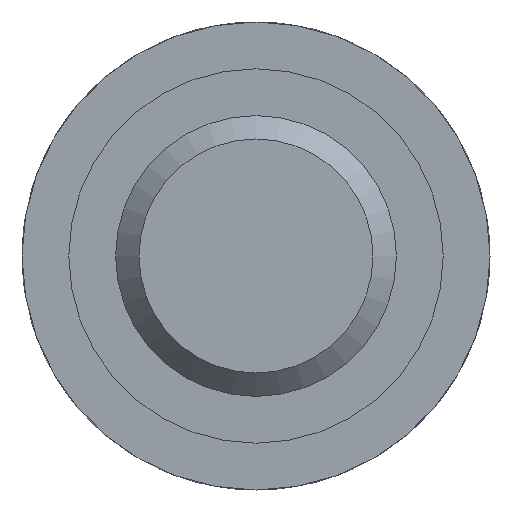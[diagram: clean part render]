
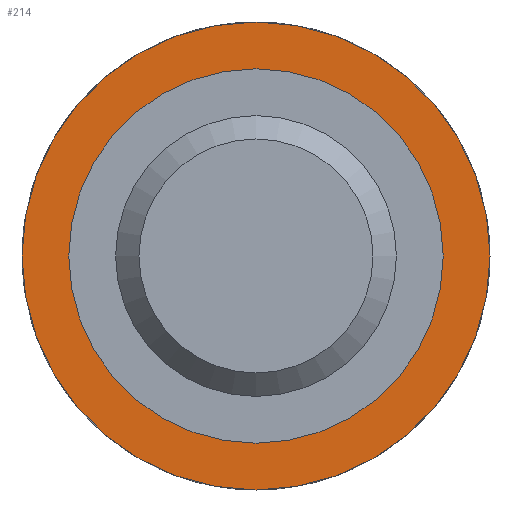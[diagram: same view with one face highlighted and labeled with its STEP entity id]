
A CAD part, left-side view. The second image highlights one B-rep face of the part: STEP entity #214.
In plain terms, the highlighted planar face has unit normal (-1, 0, 0).
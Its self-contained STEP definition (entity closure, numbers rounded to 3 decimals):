
#17=FACE_BOUND('',#60,.T.);
#29=PLANE('',#262);
#43=FACE_OUTER_BOUND('',#59,.T.);
#59=EDGE_LOOP('',(#197));
#60=EDGE_LOOP('',(#198));
#96=CIRCLE('',#251,5.);
#101=CIRCLE('',#261,3.25);
#115=VERTEX_POINT('',#374);
#119=VERTEX_POINT('',#390);
#139=EDGE_CURVE('',#115,#115,#96,.T.);
#145=EDGE_CURVE('',#119,#119,#101,.T.);
#197=ORIENTED_EDGE('',*,*,#139,.F.);
#198=ORIENTED_EDGE('',*,*,#145,.T.);
#214=ADVANCED_FACE('',(#43,#17),#29,.T.);
#251=AXIS2_PLACEMENT_3D('',#376,#307,#308);
#261=AXIS2_PLACEMENT_3D('',#391,#328,#329);
#262=AXIS2_PLACEMENT_3D('',#393,#331,#332);
#307=DIRECTION('center_axis',(1.,0.,0.));
#308=DIRECTION('ref_axis',(0.,0.,-1.));
#328=DIRECTION('center_axis',(1.,0.,0.));
#329=DIRECTION('ref_axis',(0.,0.,-1.));
#331=DIRECTION('center_axis',(-1.,0.,0.));
#332=DIRECTION('ref_axis',(0.,0.,1.));
#374=CARTESIAN_POINT('',(25.,-5.,0.));
#376=CARTESIAN_POINT('Origin',(25.,0.,0.));
#390=CARTESIAN_POINT('',(25.,-3.25,0.));
#391=CARTESIAN_POINT('Origin',(25.,0.,0.));
#393=CARTESIAN_POINT('Origin',(25.,5.,0.));
